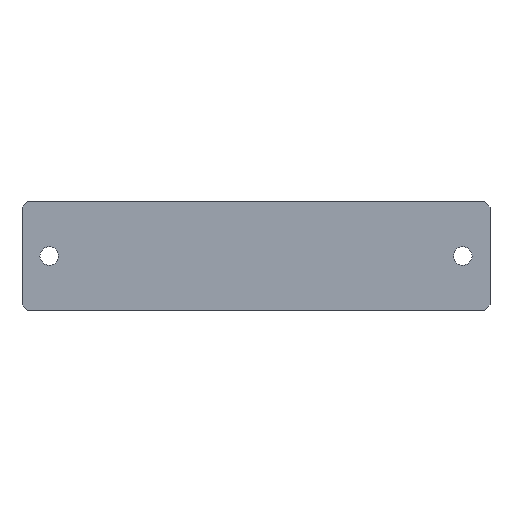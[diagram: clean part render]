
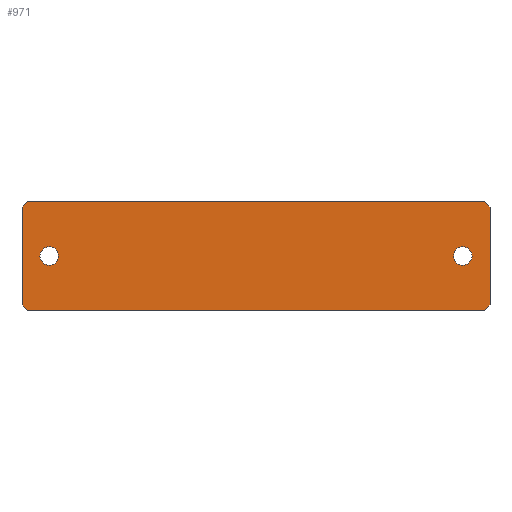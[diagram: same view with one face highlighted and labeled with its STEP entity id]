
A CAD part, front view. The second image highlights one B-rep face of the part: STEP entity #971.
In plain terms, the highlighted planar face has unit normal (0, -1, 0).
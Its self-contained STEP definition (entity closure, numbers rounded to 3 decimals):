
#6 = CARTESIAN_POINT ( 'NONE',  ( -42., -34., -10. ) ) ;
#29 = EDGE_CURVE ( 'NONE', #298, #817, #140, .T. ) ;
#44 = CARTESIAN_POINT ( 'NONE',  ( 38., -34., 0. ) ) ;
#47 = DIRECTION ( 'NONE',  ( 0., 0., -1. ) ) ;
#50 = EDGE_CURVE ( 'NONE', #298, #990, #1064, .T. ) ;
#54 = VERTEX_POINT ( 'NONE', #855 ) ;
#58 = ORIENTED_EDGE ( 'NONE', *, *, #255, .T. ) ;
#63 = DIRECTION ( 'NONE',  ( 0., 0., -1. ) ) ;
#64 = LINE ( 'NONE', #450, #309 ) ;
#69 = CIRCLE ( 'NONE', #897, 1.7 ) ;
#72 = ORIENTED_EDGE ( 'NONE', *, *, #106, .T. ) ;
#101 = CARTESIAN_POINT ( 'NONE',  ( 43., -34., -9. ) ) ;
#106 = EDGE_CURVE ( 'NONE', #509, #54, #361, .T. ) ;
#140 = LINE ( 'NONE', #470, #878 ) ;
#145 = FACE_OUTER_BOUND ( 'NONE', #908, .T. ) ;
#148 = CARTESIAN_POINT ( 'NONE',  ( 43., -34., 9. ) ) ;
#150 = ORIENTED_EDGE ( 'NONE', *, *, #463, .T. ) ;
#164 = ORIENTED_EDGE ( 'NONE', *, *, #517, .T. ) ;
#181 = VERTEX_POINT ( 'NONE', #6 ) ;
#197 = CARTESIAN_POINT ( 'NONE',  ( -43., -34., 9. ) ) ;
#204 = EDGE_CURVE ( 'NONE', #181, #960, #428, .T. ) ;
#225 = DIRECTION ( 'NONE',  ( -0.707, 0., 0.707 ) ) ;
#233 = DIRECTION ( 'NONE',  ( 0., 1., 0. ) ) ;
#236 = AXIS2_PLACEMENT_3D ( 'NONE', #438, #681, #776 ) ;
#243 = FACE_BOUND ( 'NONE', #415, .T. ) ;
#255 = EDGE_CURVE ( 'NONE', #806, #465, #726, .T. ) ;
#266 = CARTESIAN_POINT ( 'NONE',  ( -42., -34., 10. ) ) ;
#278 = CARTESIAN_POINT ( 'NONE',  ( -43., -34., 10. ) ) ;
#294 = CARTESIAN_POINT ( 'NONE',  ( 39.7, -34., 0. ) ) ;
#298 = VERTEX_POINT ( 'NONE', #148 ) ;
#305 = VECTOR ( 'NONE', #225, 1000. ) ;
#309 = VECTOR ( 'NONE', #949, 1000. ) ;
#310 = FACE_BOUND ( 'NONE', #533, .T. ) ;
#361 = CIRCLE ( 'NONE', #930, 1.7 ) ;
#362 = LINE ( 'NONE', #266, #1017 ) ;
#380 = VECTOR ( 'NONE', #864, 1000. ) ;
#395 = EDGE_CURVE ( 'NONE', #465, #806, #69, .T. ) ;
#399 = ORIENTED_EDGE ( 'NONE', *, *, #777, .T. ) ;
#405 = VERTEX_POINT ( 'NONE', #836 ) ;
#415 = EDGE_LOOP ( 'NONE', ( #987, #58 ) ) ;
#428 = LINE ( 'NONE', #686, #527 ) ;
#435 = LINE ( 'NONE', #278, #551 ) ;
#438 = CARTESIAN_POINT ( 'NONE',  ( 38., -34., 0. ) ) ;
#442 = DIRECTION ( 'NONE',  ( -0.707, 0., -0.707 ) ) ;
#450 = CARTESIAN_POINT ( 'NONE',  ( -43., -34., -9. ) ) ;
#463 = EDGE_CURVE ( 'NONE', #405, #181, #64, .T. ) ;
#465 = VERTEX_POINT ( 'NONE', #961 ) ;
#468 = CARTESIAN_POINT ( 'NONE',  ( -38., -34., 0. ) ) ;
#470 = CARTESIAN_POINT ( 'NONE',  ( 43., -34., 10. ) ) ;
#486 = DIRECTION ( 'NONE',  ( -1., 0., 0. ) ) ;
#509 = VERTEX_POINT ( 'NONE', #294 ) ;
#517 = EDGE_CURVE ( 'NONE', #847, #405, #622, .T. ) ;
#524 = DIRECTION ( 'NONE',  ( 1., 0., 0. ) ) ;
#527 = VECTOR ( 'NONE', #928, 1000. ) ;
#532 = CARTESIAN_POINT ( 'NONE',  ( 43., -34., -9. ) ) ;
#533 = EDGE_LOOP ( 'NONE', ( #399, #72 ) ) ;
#551 = VECTOR ( 'NONE', #604, 1000. ) ;
#562 = DIRECTION ( 'NONE',  ( -1., 0., 0. ) ) ;
#565 = ORIENTED_EDGE ( 'NONE', *, *, #50, .T. ) ;
#604 = DIRECTION ( 'NONE',  ( 1., 0., 0. ) ) ;
#614 = DIRECTION ( 'NONE',  ( 0., 1., 0. ) ) ;
#622 = LINE ( 'NONE', #787, #693 ) ;
#624 = AXIS2_PLACEMENT_3D ( 'NONE', #468, #645, #562 ) ;
#645 = DIRECTION ( 'NONE',  ( 0., 1., 0. ) ) ;
#681 = DIRECTION ( 'NONE',  ( 0., 1., 0. ) ) ;
#686 = CARTESIAN_POINT ( 'NONE',  ( -43., -34., -10. ) ) ;
#689 = DIRECTION ( 'NONE',  ( 0., 1., 0. ) ) ;
#693 = VECTOR ( 'NONE', #47, 1000. ) ;
#706 = EDGE_CURVE ( 'NONE', #1024, #847, #362, .T. ) ;
#708 = EDGE_CURVE ( 'NONE', #1024, #990, #435, .T. ) ;
#712 = CIRCLE ( 'NONE', #236, 1.7 ) ;
#726 = CIRCLE ( 'NONE', #624, 1.7 ) ;
#730 = CARTESIAN_POINT ( 'NONE',  ( -43., -34., 10. ) ) ;
#755 = ORIENTED_EDGE ( 'NONE', *, *, #931, .T. ) ;
#776 = DIRECTION ( 'NONE',  ( 1., 0., 0. ) ) ;
#777 = EDGE_CURVE ( 'NONE', #54, #509, #712, .T. ) ;
#778 = CARTESIAN_POINT ( 'NONE',  ( -38., -34., 0. ) ) ;
#786 = ORIENTED_EDGE ( 'NONE', *, *, #706, .T. ) ;
#787 = CARTESIAN_POINT ( 'NONE',  ( -43., -34., 10. ) ) ;
#806 = VERTEX_POINT ( 'NONE', #1013 ) ;
#817 = VERTEX_POINT ( 'NONE', #101 ) ;
#825 = ORIENTED_EDGE ( 'NONE', *, *, #204, .T. ) ;
#829 = CARTESIAN_POINT ( 'NONE',  ( 42., -34., -10. ) ) ;
#836 = CARTESIAN_POINT ( 'NONE',  ( -43., -34., -9. ) ) ;
#847 = VERTEX_POINT ( 'NONE', #197 ) ;
#855 = CARTESIAN_POINT ( 'NONE',  ( 36.3, -34., 0. ) ) ;
#862 = DIRECTION ( 'NONE',  ( -1., 0., 0. ) ) ;
#864 = DIRECTION ( 'NONE',  ( 0.707, 0., 0.707 ) ) ;
#878 = VECTOR ( 'NONE', #63, 1000. ) ;
#892 = PLANE ( 'NONE',  #936 ) ;
#897 = AXIS2_PLACEMENT_3D ( 'NONE', #778, #689, #862 ) ;
#906 = CARTESIAN_POINT ( 'NONE',  ( -42., -34., 10. ) ) ;
#908 = EDGE_LOOP ( 'NONE', ( #995, #565, #1069, #786, #164, #150, #825, #755 ) ) ;
#928 = DIRECTION ( 'NONE',  ( 1., 0., 0. ) ) ;
#930 = AXIS2_PLACEMENT_3D ( 'NONE', #44, #614, #524 ) ;
#931 = EDGE_CURVE ( 'NONE', #960, #817, #943, .T. ) ;
#936 = AXIS2_PLACEMENT_3D ( 'NONE', #730, #233, #486 ) ;
#943 = LINE ( 'NONE', #532, #380 ) ;
#949 = DIRECTION ( 'NONE',  ( 0.707, 0., -0.707 ) ) ;
#960 = VERTEX_POINT ( 'NONE', #829 ) ;
#961 = CARTESIAN_POINT ( 'NONE',  ( -39.7, -34., 0. ) ) ;
#971 = ADVANCED_FACE ( 'NONE', ( #243, #310, #145 ), #892, .F. ) ;
#975 = CARTESIAN_POINT ( 'NONE',  ( 42., -34., 10. ) ) ;
#976 = CARTESIAN_POINT ( 'NONE',  ( 42., -34., 10. ) ) ;
#987 = ORIENTED_EDGE ( 'NONE', *, *, #395, .T. ) ;
#990 = VERTEX_POINT ( 'NONE', #976 ) ;
#995 = ORIENTED_EDGE ( 'NONE', *, *, #29, .F. ) ;
#1013 = CARTESIAN_POINT ( 'NONE',  ( -36.3, -34., 0. ) ) ;
#1017 = VECTOR ( 'NONE', #442, 1000. ) ;
#1024 = VERTEX_POINT ( 'NONE', #906 ) ;
#1064 = LINE ( 'NONE', #975, #305 ) ;
#1069 = ORIENTED_EDGE ( 'NONE', *, *, #708, .F. ) ;
